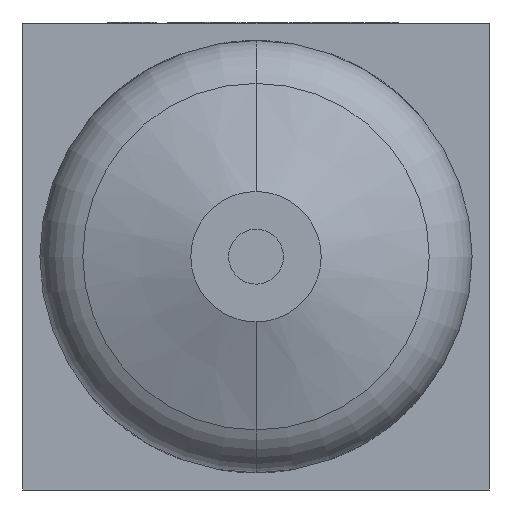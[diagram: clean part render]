
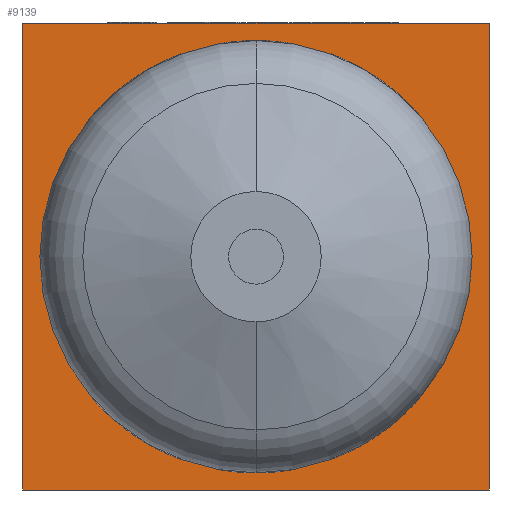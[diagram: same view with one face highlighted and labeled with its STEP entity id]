
A CAD part, front view. The second image highlights one B-rep face of the part: STEP entity #9139.
In plain terms, the highlighted planar face has unit normal (0, -1, 0).
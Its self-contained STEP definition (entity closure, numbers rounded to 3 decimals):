
#944 = EDGE_LOOP ( 'NONE', ( #4634, #7134, #5506, #3858 ) ) ;
#1319 = EDGE_CURVE ( 'NONE', #11981, #7179, #11884, .T. ) ;
#1498 = EDGE_CURVE ( 'NONE', #5585, #11981, #4217, .T. ) ;
#1678 = LINE ( 'NONE', #2460, #10560 ) ;
#1835 = VECTOR ( 'NONE', #11272, 1000. ) ;
#2070 = CARTESIAN_POINT ( 'NONE',  ( 34., -34., -34. ) ) ;
#2196 = DIRECTION ( 'NONE',  ( 0., 1., 0. ) ) ;
#2460 = CARTESIAN_POINT ( 'NONE',  ( -34., -34., 34. ) ) ;
#3464 = CARTESIAN_POINT ( 'NONE',  ( -34., -34., 34. ) ) ;
#3858 = ORIENTED_EDGE ( 'NONE', *, *, #4231, .T. ) ;
#3903 = AXIS2_PLACEMENT_3D ( 'NONE', #3464, #2196, #11058 ) ;
#4217 = LINE ( 'NONE', #15332, #6187 ) ;
#4231 = EDGE_CURVE ( 'NONE', #5585, #11386, #1678, .T. ) ;
#4634 = ORIENTED_EDGE ( 'NONE', *, *, #9465, .T. ) ;
#5506 = ORIENTED_EDGE ( 'NONE', *, *, #1498, .F. ) ;
#5585 = VERTEX_POINT ( 'NONE', #6823 ) ;
#6187 = VECTOR ( 'NONE', #6248, 1000. ) ;
#6228 = LINE ( 'NONE', #8249, #1835 ) ;
#6244 = CARTESIAN_POINT ( 'NONE',  ( -34., -34., -34. ) ) ;
#6248 = DIRECTION ( 'NONE',  ( 1., 0., 0. ) ) ;
#6786 = CARTESIAN_POINT ( 'NONE',  ( 34., -34., 34. ) ) ;
#6823 = CARTESIAN_POINT ( 'NONE',  ( -34., -34., 34. ) ) ;
#7134 = ORIENTED_EDGE ( 'NONE', *, *, #1319, .F. ) ;
#7179 = VERTEX_POINT ( 'NONE', #2070 ) ;
#7462 = VECTOR ( 'NONE', #7855, 1000. ) ;
#7855 = DIRECTION ( 'NONE',  ( 0., 0., -1. ) ) ;
#8249 = CARTESIAN_POINT ( 'NONE',  ( -34., -34., -34. ) ) ;
#8773 = FACE_OUTER_BOUND ( 'NONE', #944, .T. ) ;
#9139 = ADVANCED_FACE ( 'NONE', ( #8773 ), #13578, .F. ) ;
#9465 = EDGE_CURVE ( 'NONE', #11386, #7179, #6228, .T. ) ;
#9558 = DIRECTION ( 'NONE',  ( 0., 0., -1. ) ) ;
#10560 = VECTOR ( 'NONE', #9558, 1000. ) ;
#11058 = DIRECTION ( 'NONE',  ( 0., 0., 1. ) ) ;
#11272 = DIRECTION ( 'NONE',  ( 1., 0., 0. ) ) ;
#11386 = VERTEX_POINT ( 'NONE', #6244 ) ;
#11884 = LINE ( 'NONE', #13901, #7462 ) ;
#11981 = VERTEX_POINT ( 'NONE', #6786 ) ;
#13578 = PLANE ( 'NONE',  #3903 ) ;
#13901 = CARTESIAN_POINT ( 'NONE',  ( 34., -34., 34. ) ) ;
#15332 = CARTESIAN_POINT ( 'NONE',  ( -34., -34., 34. ) ) ;
